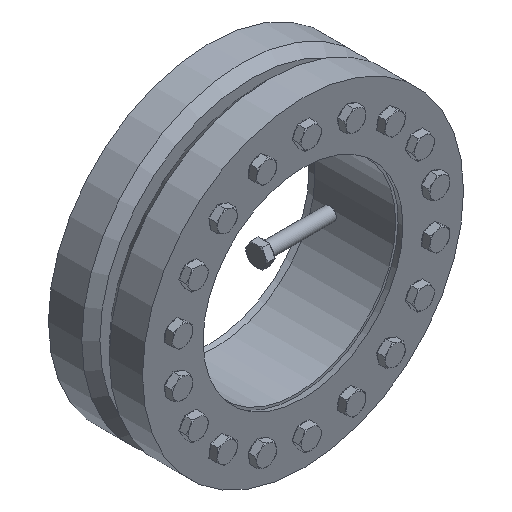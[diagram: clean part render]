
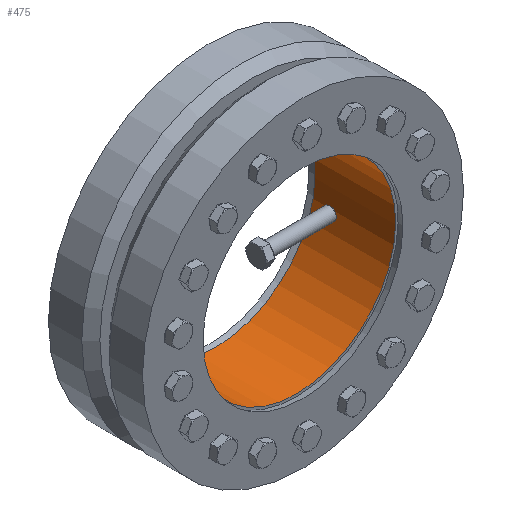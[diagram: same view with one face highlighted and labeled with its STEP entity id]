
A CAD part, isometric view. The second image highlights one B-rep face of the part: STEP entity #475.
In plain terms, the highlighted cylindrical face has radius 150 mm (diameter 300 mm), a partial arc.
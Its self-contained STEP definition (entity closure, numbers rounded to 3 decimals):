
#475 = ADVANCED_FACE( '', ( #839 ), #840, .F. );
#839 = FACE_OUTER_BOUND( '', #1147, .T. );
#840 = CYLINDRICAL_SURFACE( '', #1148, 150. );
#1147 = EDGE_LOOP( '', ( #1635, #1636, #1637, #1638 ) );
#1148 = AXIS2_PLACEMENT_3D( '', #1639, #1640, #1641 );
#1635 = ORIENTED_EDGE( '', *, *, #2032, .T. );
#1636 = ORIENTED_EDGE( '', *, *, #1948, .T. );
#1637 = ORIENTED_EDGE( '', *, *, #2028, .F. );
#1638 = ORIENTED_EDGE( '', *, *, #1924, .F. );
#1639 = CARTESIAN_POINT( '', ( 0., -60., 0. ) );
#1640 = DIRECTION( '', ( 0., 1., 0. ) );
#1641 = DIRECTION( '', ( 0., 0., -1. ) );
#1924 = EDGE_CURVE( '', #2119, #2120, #2121, .F. );
#1948 = EDGE_CURVE( '', #2149, #2161, #2163, .F. );
#2028 = EDGE_CURVE( '', #2120, #2161, #2318, .T. );
#2032 = EDGE_CURVE( '', #2119, #2149, #2323, .T. );
#2119 = VERTEX_POINT( '', #2344 );
#2120 = VERTEX_POINT( '', #2345 );
#2121 = LINE( '', #2346, #2347 );
#2149 = VERTEX_POINT( '', #2394 );
#2161 = VERTEX_POINT( '', #2415 );
#2163 = LINE( '', #2418, #2419 );
#2318 = CIRCLE( '', #2575, 150. );
#2323 = CIRCLE( '', #2580, 150. );
#2344 = CARTESIAN_POINT( '', ( -7.1, -61., 149.832 ) );
#2345 = CARTESIAN_POINT( '', ( -7.1, 61., 149.832 ) );
#2346 = CARTESIAN_POINT( '', ( -7.1, -60., 149.832 ) );
#2347 = VECTOR( '', #2604, 1000. );
#2394 = CARTESIAN_POINT( '', ( 7.1, -61., 149.832 ) );
#2415 = CARTESIAN_POINT( '', ( 7.1, 61., 149.832 ) );
#2418 = CARTESIAN_POINT( '', ( 7.1, -60., 149.832 ) );
#2419 = VECTOR( '', #2628, 1000. );
#2575 = AXIS2_PLACEMENT_3D( '', #2864, #2865, #2866 );
#2580 = AXIS2_PLACEMENT_3D( '', #2876, #2877, #2878 );
#2604 = DIRECTION( '', ( 0., -1., 0. ) );
#2628 = DIRECTION( '', ( 0., -1., 0. ) );
#2864 = CARTESIAN_POINT( '', ( 0., 61., 0. ) );
#2865 = DIRECTION( '', ( 0., -1., 0. ) );
#2866 = DIRECTION( '', ( 0., 0., -1. ) );
#2876 = CARTESIAN_POINT( '', ( 0., -61., 0. ) );
#2877 = DIRECTION( '', ( 0., -1., 0. ) );
#2878 = DIRECTION( '', ( 0., 0., -1. ) );
